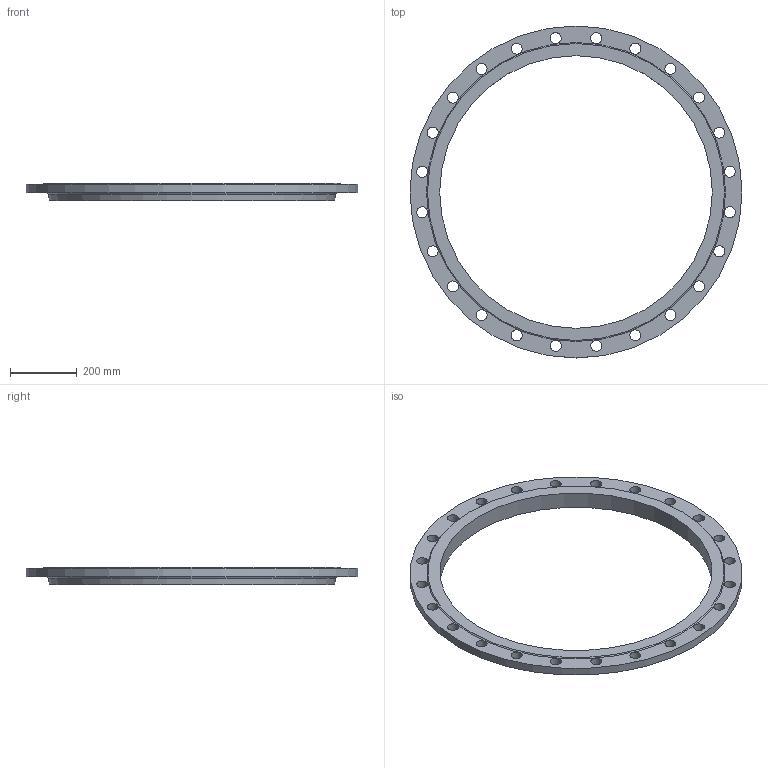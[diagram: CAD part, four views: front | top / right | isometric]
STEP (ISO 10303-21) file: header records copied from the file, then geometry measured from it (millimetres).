
FILE_DESCRIPTION(/* description */ (''),/* implementation_level */ '2;1');
FILE_NAME(/* name */ 'C:\Users\D\Documents\Inventor\HP\JIS\フランジ\JIS 5k soh rf\jis5k-soh-rf-800.stp',/* time_stamp */ '2024-08-29T14:25:58+09:00',/* author */ ('D'),/* organization */ (''),/* preprocessor_version */ 'ST-DEVELOPER v18',/* originating_system */ 'Autodesk Inventor 2020',/* authorisation */ '');
FILE_SCHEMA (('AUTOMOTIVE_DESIGN { 1 0 10303 214 3 1 1 }'));
Length unit declared in the file: millimetre
Products named in the file (1): jis5k-soh-ff-450
Bounding box: 995 x 995 x 52 mm (x, y, z)
Volume: 7423197.4 mm3; surface area: 795096.9 mm2
Topology: 1 solids, 1 shells, 33 faces, 95 edges, 66 vertices
Faces by surface type: cylinder 26, plane 4, torus 2, cone 1
Full cylindrical faces by diameter (mm): 33 x24, 817 x1, 995 x1
Entity records: 1282 total; most frequent: DIRECTION 231, CARTESIAN_POINT 195, ORIENTED_EDGE 190, AXIS2_PLACEMENT_3D 102, EDGE_CURVE 95, EDGE_LOOP 85, CIRCLE 68, VERTEX_POINT 66
